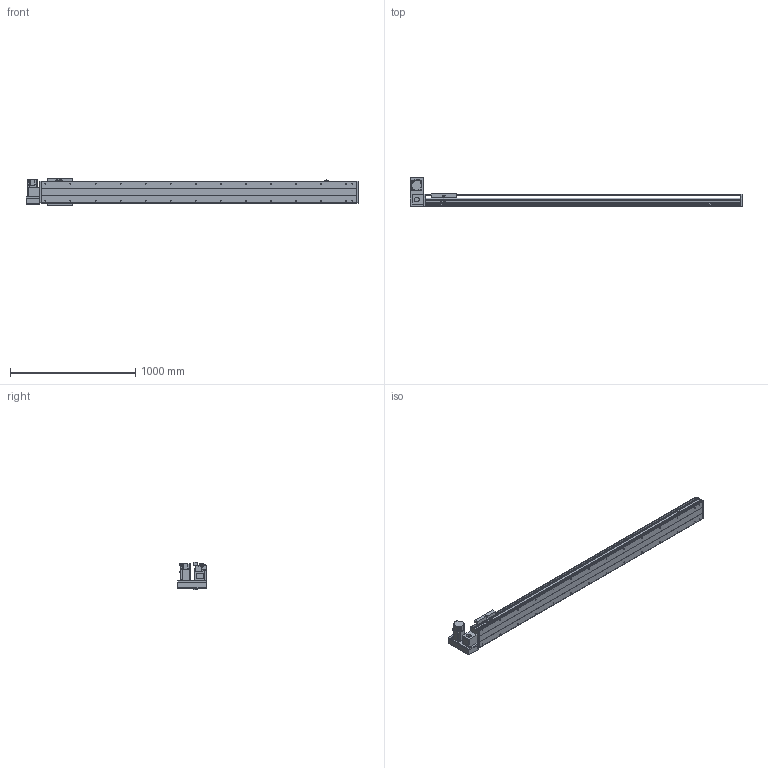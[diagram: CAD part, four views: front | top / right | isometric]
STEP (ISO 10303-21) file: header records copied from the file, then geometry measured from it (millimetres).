
FILE_DESCRIPTION(/* description */ ('STEP AP214'),/* implementation_level */ '2;1');
FILE_NAME(/* name */ 'PBS200-P40-S2150-LU-T75-C1-N(0)',/* time_stamp */ '2022-06-11T09:02:41+02:00',/* author */ ('License CC BY-ND 4.0'),/* organization */ ('CADENAS'),/* preprocessor_version */ 'ST-DEVELOPER v18.102',/* originating_system */ 'PARTsolutions',/* authorisation */ ' ');
FILE_SCHEMA (('AUTOMOTIVE_DESIGN {1 0 10303 214 3 1 1}'));
Length unit declared in the file: millimetre
Products named in the file (7): PBS200-P40-S2150-LU-T75-C1-N(0); PBS200_sensor; PBS200_plant; PBS200_sliser; T75-p1; PBS200T-LU_motors; PBS200-S2150()_body
Assembly tree (8 placements, depth 2):
  PBS200-P40-S2150-LU-T75-C1-N(0)
    PBS200_sensor  x3
    PBS200_plant
    PBS200_sliser
    T75-p1
    PBS200T-LU_motors
    PBS200-S2150()_body
Bounding box: 2650 x 231 x 221 mm (x, y, z)
Volume: 18417972.5 mm3; surface area: 2951995 mm2
Topology: 8 solids, 8 shells, 956 faces, 2434 edges, 1584 vertices
Faces by surface type: plane 586, cylinder 310, cone 60
Full cylindrical faces by diameter (mm): 2.459 x6, 3.242 x4, 4.5 x6, 4.917 x4, 5 x6, 6 x7, 6.6 x8, 6.647 x32, 8 x6, 10 x4, 12 x8, 38 x2, 40 x1, 70 x1
Entity records: 25301 total; most frequent: DIRECTION 4471, CARTESIAN_POINT 4300, ORIENTED_EDGE 4054, EDGE_CURVE 2027, AXIS2_PLACEMENT_3D 1579, VERTEX_POINT 1408, LINE 1313, VECTOR 1313
